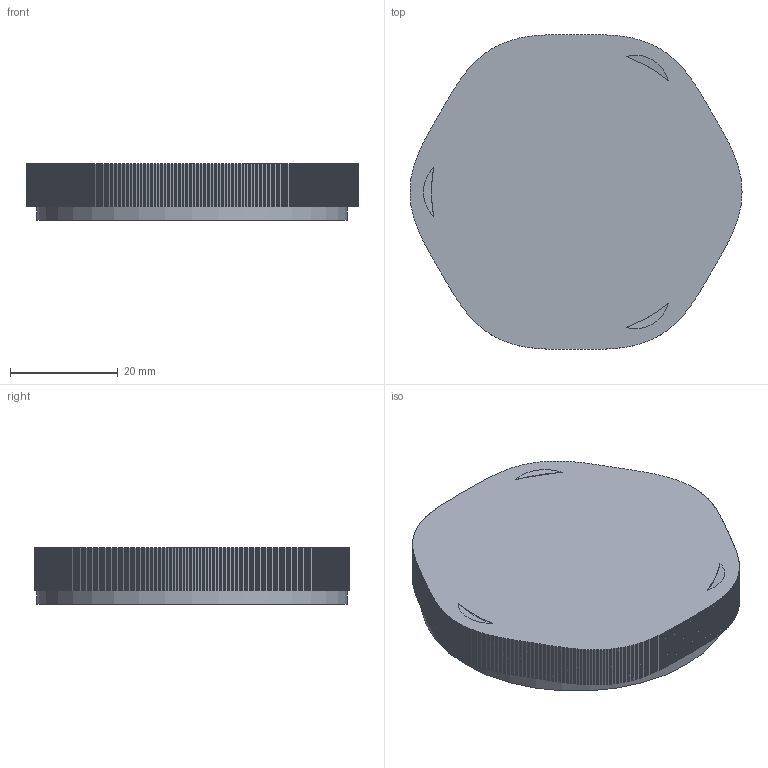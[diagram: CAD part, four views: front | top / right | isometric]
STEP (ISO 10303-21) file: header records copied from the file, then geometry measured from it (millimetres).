
FILE_DESCRIPTION(('Open CASCADE Model'),'2;1');
FILE_NAME('Open CASCADE Shape Model','2026-11-03T18:39:05',('Author'),( 'Open CASCADE'),'Open CASCADE STEP processor 7.9','Open CASCADE 7.9' ,'Unknown');
FILE_SCHEMA(('AUTOMOTIVE_DESIGN { 1 0 10303 214 1 1 1 1 }'));
Length unit declared in the file: millimetre
Products named in the file (1): Open CASCADE STEP translator 7.9 12
Bounding box: 61.6 x 58.4 x 10.5 mm (x, y, z)
Volume: 10006.3 mm3; surface area: 9177.1 mm2
Topology: 1 solids, 1 shells, 738 faces, 2184 edges, 1456 vertices
Faces by surface type: plane 727, cylinder 8, sphere 3
Full cylindrical faces by diameter (mm): 5.2 x1, 7 x1, 50 x1, 51.95 x1, 57.6 x1
Entity records: 52798 total; most frequent: CARTESIAN_POINT 9026, DIRECTION 8034, LINE 6511, VECTOR 6511, ORIENTED_EDGE 4368, PCURVE 4368, DEFINITIONAL_REPRESENTATION 4368, EDGE_CURVE 2184
